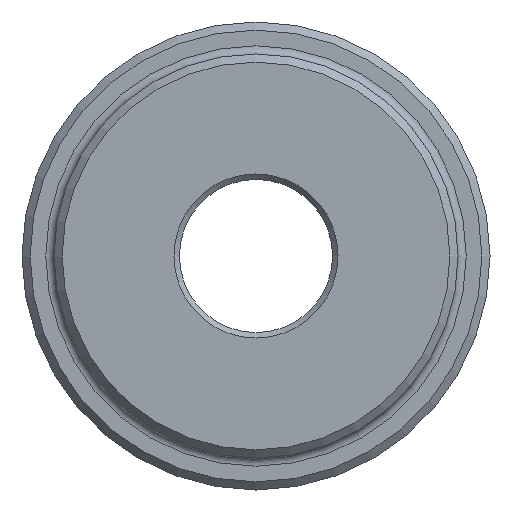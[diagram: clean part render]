
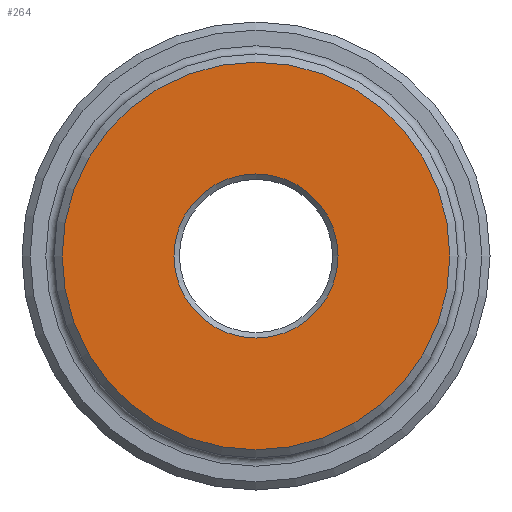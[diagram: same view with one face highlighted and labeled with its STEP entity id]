
A CAD part, left-side view. The second image highlights one B-rep face of the part: STEP entity #264.
In plain terms, the highlighted planar face has unit normal (-1, 0, 0).
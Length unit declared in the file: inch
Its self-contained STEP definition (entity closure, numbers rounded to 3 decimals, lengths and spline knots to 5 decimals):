
#44 = DIRECTION ( 'NONE',  ( 0., 0., -1. ) ) ;
#62 = CIRCLE ( 'NONE', #1720, 1.425 ) ;
#96 = DIRECTION ( 'NONE',  ( 1., 0., 0. ) ) ;
#131 = VERTEX_POINT ( 'NONE', #1304 ) ;
#264 = ADVANCED_FACE ( 'NONE', ( #1104, #651 ), #760, .F. ) ;
#388 = CARTESIAN_POINT ( 'NONE',  ( 0., 0., 0. ) ) ;
#651 = FACE_OUTER_BOUND ( 'NONE', #693, .T. ) ;
#693 = EDGE_LOOP ( 'NONE', ( #1534 ) ) ;
#721 = DIRECTION ( 'NONE',  ( 0., 0., -1. ) ) ;
#760 = PLANE ( 'NONE',  #1157 ) ;
#815 = DIRECTION ( 'NONE',  ( 1., 0., 0. ) ) ;
#842 = DIRECTION ( 'NONE',  ( 0., 0., -1. ) ) ;
#843 = EDGE_LOOP ( 'NONE', ( #1514 ) ) ;
#909 = CARTESIAN_POINT ( 'NONE',  ( 0., 0., 0. ) ) ;
#1104 = FACE_BOUND ( 'NONE', #843, .T. ) ;
#1108 = CARTESIAN_POINT ( 'NONE',  ( 0., 0., 0. ) ) ;
#1113 = EDGE_CURVE ( 'NONE', #131, #131, #1821, .T. ) ;
#1157 = AXIS2_PLACEMENT_3D ( 'NONE', #909, #815, #44 ) ;
#1229 = AXIS2_PLACEMENT_3D ( 'NONE', #1108, #96, #842 ) ;
#1237 = DIRECTION ( 'NONE',  ( -1., 0., 0. ) ) ;
#1304 = CARTESIAN_POINT ( 'NONE',  ( 0., 0., -0.60275 ) ) ;
#1514 = ORIENTED_EDGE ( 'NONE', *, *, #1113, .T. ) ;
#1534 = ORIENTED_EDGE ( 'NONE', *, *, #1557, .T. ) ;
#1557 = EDGE_CURVE ( 'NONE', #1558, #1558, #62, .T. ) ;
#1558 = VERTEX_POINT ( 'NONE', #1650 ) ;
#1650 = CARTESIAN_POINT ( 'NONE',  ( 0., 0., -1.425 ) ) ;
#1720 = AXIS2_PLACEMENT_3D ( 'NONE', #388, #1237, #721 ) ;
#1821 = CIRCLE ( 'NONE', #1229, 0.60275 ) ;
